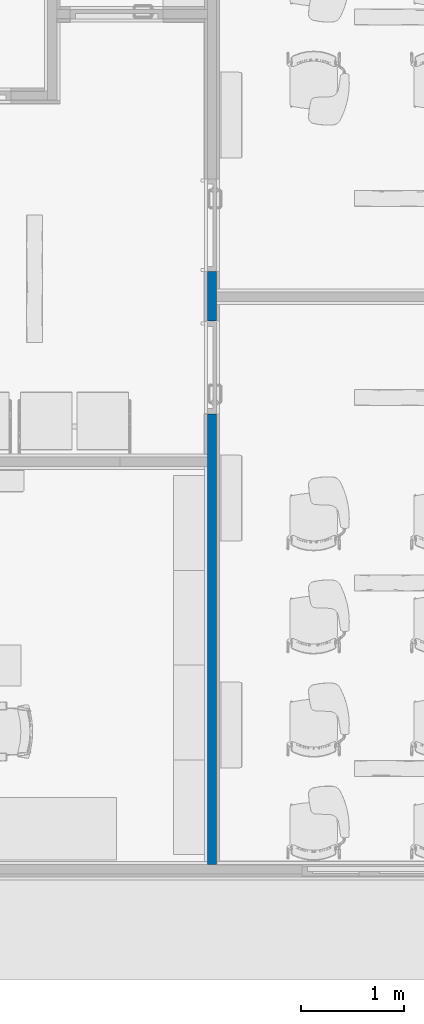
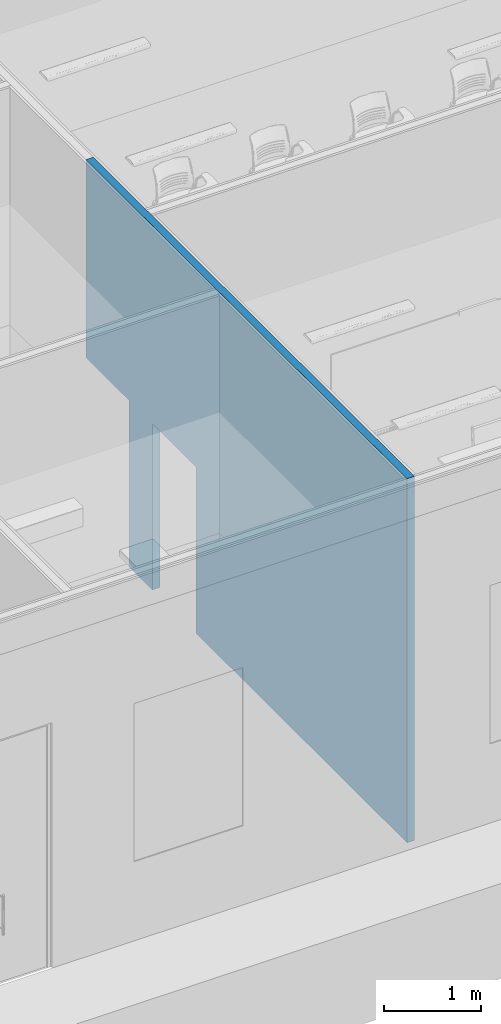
# One storey, part 18 of 155: 1 wall, 2 openings.
"""IFC2X3 building model written with IfcOpenShell, lengths in metres."""

from ifc_helpers import new_model, entity, si_unit, converted_unit, derived_unit, direction, frame, frame_2d, origin, place, context, subcontext, project, spatial, rectangle, extrude, material, layer, layer_set, layer_usage, type_object, element, save


model = new_model("IFC2X3")

# Units and contexts
model_context = context("Model", 3, precision=1e-05, world=origin(), true_north=direction((6.12303176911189e-17, 1.0)))
body_context = subcontext(model_context, "Body", "Model", "MODEL_VIEW")
ifc_project = project(units=[si_unit("LENGTHUNIT", "METRE"), si_unit("AREAUNIT", "SQUARE_METRE"), si_unit("VOLUMEUNIT", "CUBIC_METRE"), converted_unit("PLANEANGLEUNIT", "DEGREE", entity("IfcRatioMeasure", 0.0174532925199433), si_unit("PLANEANGLEUNIT", "RADIAN"), dimensions=[0, 0, 0, 0, 0, 0, 0]), si_unit("MASSUNIT", "GRAM", prefix="KILO"), derived_unit("MASSDENSITYUNIT", [(si_unit("MASSUNIT", "GRAM", prefix="KILO"), 1), (si_unit("LENGTHUNIT", "METRE"), -3)]), si_unit("TIMEUNIT", "SECOND"), si_unit("FREQUENCYUNIT", "HERTZ"), si_unit("THERMODYNAMICTEMPERATUREUNIT", "DEGREE_CELSIUS"), derived_unit("THERMALTRANSMITTANCEUNIT", [(si_unit("MASSUNIT", "GRAM", prefix="KILO"), 1), (si_unit("THERMODYNAMICTEMPERATUREUNIT", "KELVIN"), -1), (si_unit("TIMEUNIT", "SECOND"), -3)]), derived_unit("VOLUMETRICFLOWRATEUNIT", [(si_unit("LENGTHUNIT", "METRE"), 3), (si_unit("TIMEUNIT", "SECOND"), -1)]), si_unit("ELECTRICCURRENTUNIT", "AMPERE"), si_unit("ELECTRICVOLTAGEUNIT", "VOLT"), si_unit("POWERUNIT", "WATT"), si_unit("FORCEUNIT", "NEWTON", prefix="KILO"), si_unit("ILLUMINANCEUNIT", "LUX"), si_unit("LUMINOUSFLUXUNIT", "LUMEN"), si_unit("LUMINOUSINTENSITYUNIT", "CANDELA"), derived_unit("USERDEFINED", [(si_unit("MASSUNIT", "GRAM", prefix="KILO"), -1), (si_unit("LENGTHUNIT", "METRE"), -2), (si_unit("TIMEUNIT", "SECOND"), 3), (si_unit("LUMINOUSFLUXUNIT", "LUMEN"), 1)]), derived_unit("LINEARVELOCITYUNIT", [(si_unit("LENGTHUNIT", "METRE"), 1), (si_unit("TIMEUNIT", "SECOND"), -1)]), si_unit("PRESSUREUNIT", "PASCAL"), derived_unit("USERDEFINED", [(si_unit("LENGTHUNIT", "METRE"), -2), (si_unit("MASSUNIT", "GRAM", prefix="KILO"), 1), (si_unit("TIMEUNIT", "SECOND"), -2)])], contexts=[model_context])

# Site, building, storey
site_placement = place(None, frame((26.9889013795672, -17.5624287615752, 0.0)))
site = spatial("IfcSite", under=ifc_project, at=site_placement, Name="Default", CompositionType="ELEMENT")
building_placement = place(site_placement, origin())
building = spatial("IfcBuilding", under=site, at=building_placement, Name="C. C. L. Monsenhor Antônio Sampaio", CompositionType="ELEMENT")
storey_placement = place(building_placement, frame((0.0, 0.0, 1.19999999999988)))
storey = spatial("IfcBuildingStorey", under=building, at=storey_placement, Name="Nível 1.2", CompositionType="ELEMENT", Elevation=1.19999999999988)

# Wall, openings
ifc_material = material(Name="ALVENARIA")
ifc_layer = layer(ifc_material, 0.09)
ifc_layer_set = layer_set([ifc_layer], Name="Parede básica:ENucleo parede 15cm")
ifc_layer_usage = layer_usage(ifc_layer_set, "AXIS2", "POSITIVE", -0.045)
wall_type = type_object("IfcWallType", Name="Parede básica:ENucleo parede 15cm", PredefinedType="STANDARD", material=ifc_layer_set)
wall_placement = place(storey_placement, frame((3.80444770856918, -32.683066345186, 0.0), z_axis=(0.0, 0.0, 1.0), x_axis=(0.0, -1.0, 0.0)))
wall = element("IfcWallStandardCase", 1, at=wall_placement, inside=storey, type_object=wall_type, material=ifc_layer_usage, Name="Parede básica:ENucleo parede 15cm", ObjectType="Parede básica:ENucleo parede 15cm", context=body_context, shape_type="SweptSolid", body=[
    extrude(rectangle(XDim=6.6500000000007, YDim=0.0900000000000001, at=frame_2d((3.32500000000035, 2.77555756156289e-17), x_axis=(-1.0, 0.0))), origin(), (0.0, 0.0, 1.0), 4.60000000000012),
])
opening_1_placement = place(wall_placement, frame((0.0, -0.0449999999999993, 0.0)))
element("IfcOpeningElement", 2, at=opening_1_placement, cuts=wall, Name="Porta levantamento:90 x 211 AZUL:1", ObjectType="Opening", context=body_context, shape_type="SweptSolid", body=[
    extrude(rectangle(XDim=2.09999999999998, YDim=0.9, at=frame_2d((1.04999999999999, 0.45), x_axis=(1.0, 0.0))), frame((0.0, 0.0, 0.0), z_axis=(0.0, 1.0, 0.0), x_axis=(0.0, 0.0, 1.0)), (0.0, 0.0, 1.0), 0.09),
])
opening_2_placement = place(wall_placement, frame((1.38000000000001, -0.0449999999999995, 0.0)))
element("IfcOpeningElement", 3, at=opening_2_placement, cuts=wall, Name="Porta levantamento:90 x 211 AZUL:1", ObjectType="Opening", context=body_context, shape_type="SweptSolid", body=[
    extrude(rectangle(XDim=2.09999999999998, YDim=0.9, at=frame_2d((1.04999999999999, 0.45), x_axis=(1.0, 0.0))), frame((0.0, 0.0, 0.0), z_axis=(0.0, 1.0, 0.0), x_axis=(0.0, 0.0, 1.0)), (0.0, 0.0, 1.0), 0.09),
])

save(model, "model.ifc")
